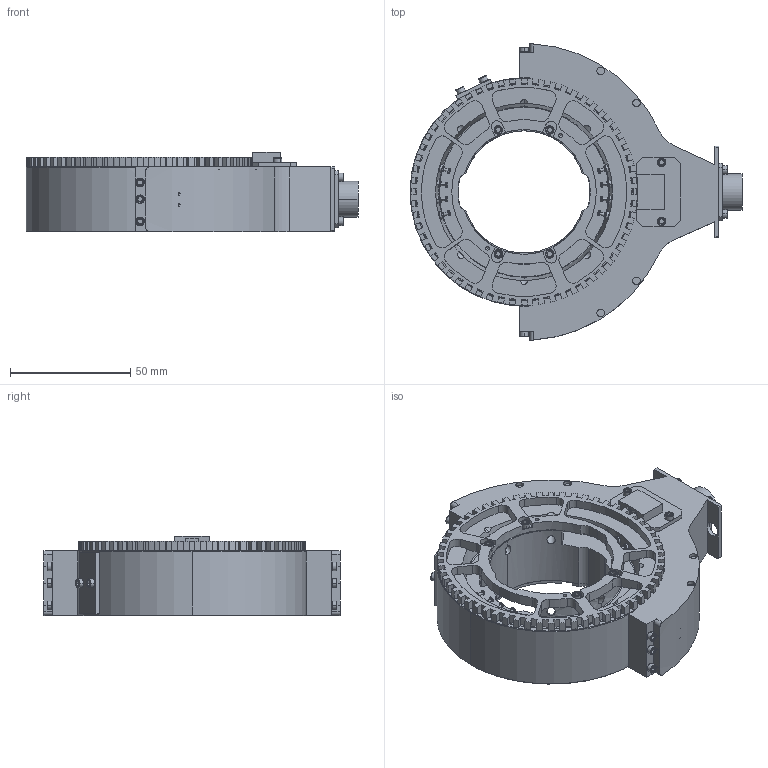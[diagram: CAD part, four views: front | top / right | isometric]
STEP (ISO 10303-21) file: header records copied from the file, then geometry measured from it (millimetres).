
FILE_DESCRIPTION (( 'STEP AP214' ), '1' );
FILE_NAME ('1012189.STEP', '2018-11-15T19:13:46', ( '' ), ( '' ), 'SwSTEP 2.0', 'SolidWorks 2018', '' );
FILE_SCHEMA (( 'AUTOMOTIVE_DESIGN' ));
Length unit declared in the file: inch
Products named in the file (1): 1012189
Bounding box: 137.87 x 123.11 x 32.97 mm (x, y, z)
Volume: 216647.6 mm3; surface area: 49659.5 mm2
Topology: 1 solids, 47 shells, 2335 faces, 6255 edges, 4008 vertices
Faces by surface type: cylinder 1228, plane 726, cone 318, bspline 63
Entity records: 110166 total; most frequent: CARTESIAN_POINT 55832, ORIENTED_EDGE 12438, DIRECTION 10093, EDGE_CURVE 6219, VERTEX_POINT 4008, AXIS2_PLACEMENT_3D 3673, LINE 2747, VECTOR 2747
